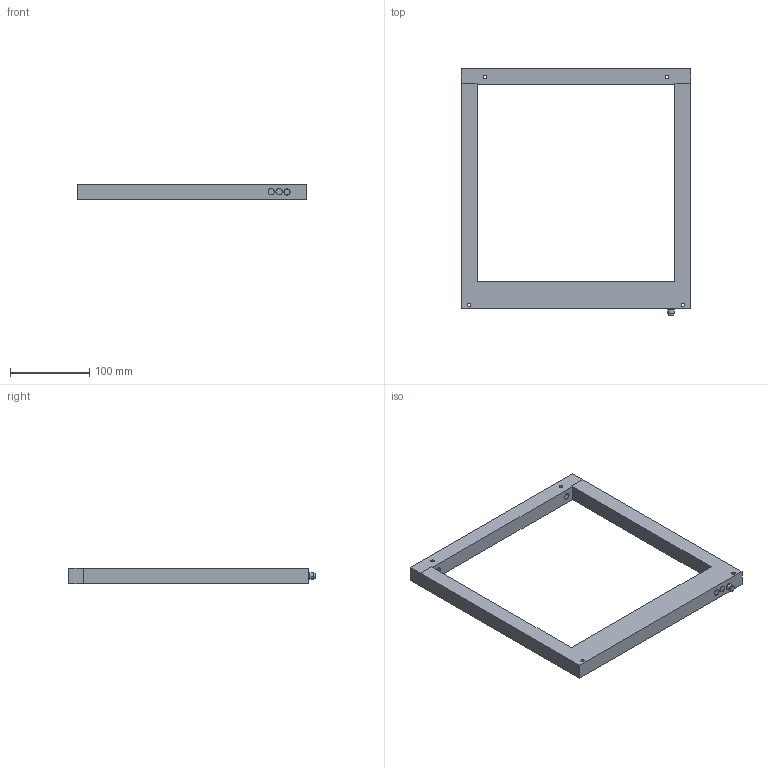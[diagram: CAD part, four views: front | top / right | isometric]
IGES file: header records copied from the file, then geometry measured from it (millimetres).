
Start section: IMSI TurboCAD v14.0
Global section: author: NULL; organization: NULL; date: 20141127.161745; units: millimetre
Bounding box: 290 x 311 x 20 mm (x, y, z)
Surface area: 173915.3 mm2 (no closed solid volume)
Topology: 0 solids, 0 shells, 150 faces, 744 edges, 744 vertices
Faces by surface type: revolution 80, extrusion 70
